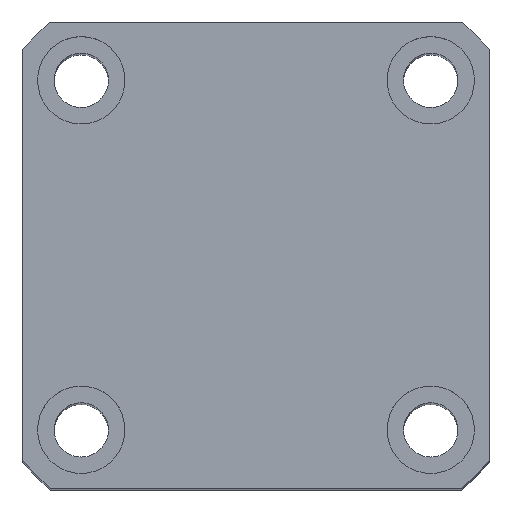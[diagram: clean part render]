
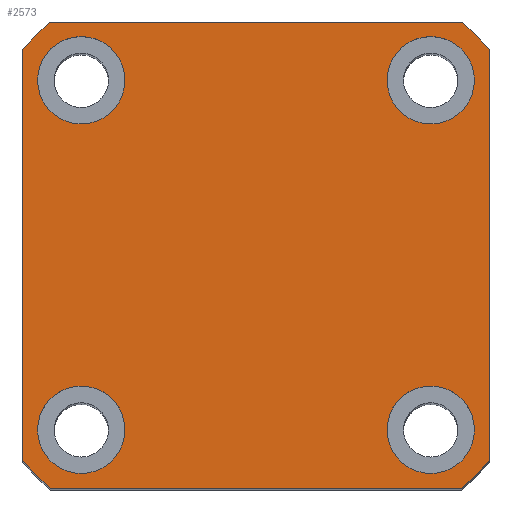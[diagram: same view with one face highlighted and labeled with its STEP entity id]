
A CAD part, top view. The second image highlights one B-rep face of the part: STEP entity #2573.
In plain terms, the highlighted planar face has unit normal (0, 0, 1) as drawn and (1, 0, 0) by its records, which use the part's own axes.
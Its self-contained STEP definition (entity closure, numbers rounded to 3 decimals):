
#80 = DIRECTION ( 'NONE',  ( 0., 0., -1. ) ) ;
#146 = LINE ( 'NONE', #2278, #1557 ) ;
#235 = AXIS2_PLACEMENT_3D ( 'NONE', #4720, #1074, #5329 ) ;
#282 = DIRECTION ( 'NONE',  ( 1., 0., 0. ) ) ;
#312 = CARTESIAN_POINT ( 'NONE',  ( 115., -21.166, 24. ) ) ;
#342 = CARTESIAN_POINT ( 'NONE',  ( 115., 21.166, -24. ) ) ;
#623 = CARTESIAN_POINT ( 'NONE',  ( 115., 18., 18. ) ) ;
#733 = CIRCLE ( 'NONE', #7125, 4.5 ) ;
#740 = FACE_BOUND ( 'NONE', #4736, .T. ) ;
#795 = CIRCLE ( 'NONE', #5382, 4.5 ) ;
#841 = EDGE_CURVE ( 'NONE', #6859, #7246, #3880, .T. ) ;
#954 = DIRECTION ( 'NONE',  ( 1., 0., 0. ) ) ;
#994 = CARTESIAN_POINT ( 'NONE',  ( 115., 0., 0. ) ) ;
#1002 = CARTESIAN_POINT ( 'NONE',  ( 115., 0., 0. ) ) ;
#1036 = ORIENTED_EDGE ( 'NONE', *, *, #5994, .F. ) ;
#1049 = DIRECTION ( 'NONE',  ( 1., 0., 0. ) ) ;
#1074 = DIRECTION ( 'NONE',  ( 1., 0., 0. ) ) ;
#1126 = EDGE_LOOP ( 'NONE', ( #2641, #1672 ) ) ;
#1143 = DIRECTION ( 'NONE',  ( 1., 0., 0. ) ) ;
#1173 = DIRECTION ( 'NONE',  ( 0., 0., -1. ) ) ;
#1235 = DIRECTION ( 'NONE',  ( 0., 0., -1. ) ) ;
#1269 = CIRCLE ( 'NONE', #235, 32. ) ;
#1291 = VECTOR ( 'NONE', #4623, 1000. ) ;
#1364 = CIRCLE ( 'NONE', #3820, 4.5 ) ;
#1483 = CARTESIAN_POINT ( 'NONE',  ( 115., -18., -18. ) ) ;
#1494 = CARTESIAN_POINT ( 'NONE',  ( 115., 21.166, 24. ) ) ;
#1557 = VECTOR ( 'NONE', #7863, 1000. ) ;
#1583 = VERTEX_POINT ( 'NONE', #342 ) ;
#1584 = EDGE_CURVE ( 'NONE', #7560, #5191, #5595, .T. ) ;
#1633 = DIRECTION ( 'NONE',  ( 0., 0., -1. ) ) ;
#1651 = DIRECTION ( 'NONE',  ( 1., 0., 0. ) ) ;
#1659 = EDGE_CURVE ( 'NONE', #6596, #7560, #7082, .T. ) ;
#1672 = ORIENTED_EDGE ( 'NONE', *, *, #841, .F. ) ;
#1794 = EDGE_CURVE ( 'NONE', #2222, #6982, #733, .T. ) ;
#1910 = ORIENTED_EDGE ( 'NONE', *, *, #5116, .T. ) ;
#2097 = CARTESIAN_POINT ( 'NONE',  ( 115., -18., 18. ) ) ;
#2161 = CARTESIAN_POINT ( 'NONE',  ( 115., 24., -24. ) ) ;
#2187 = ORIENTED_EDGE ( 'NONE', *, *, #1794, .F. ) ;
#2222 = VERTEX_POINT ( 'NONE', #7635 ) ;
#2242 = AXIS2_PLACEMENT_3D ( 'NONE', #1002, #3363, #2850 ) ;
#2278 = CARTESIAN_POINT ( 'NONE',  ( 115., 24., 24. ) ) ;
#2303 = CARTESIAN_POINT ( 'NONE',  ( 115., -21.166, -24. ) ) ;
#2331 = FACE_BOUND ( 'NONE', #1126, .T. ) ;
#2356 = DIRECTION ( 'NONE',  ( 1., 0., 0. ) ) ;
#2573 = ADVANCED_FACE ( 'NONE', ( #2331, #740, #3963, #7281, #7087 ), #5523, .T. ) ;
#2641 = ORIENTED_EDGE ( 'NONE', *, *, #4583, .F. ) ;
#2650 = CARTESIAN_POINT ( 'NONE',  ( 115., -18., 18. ) ) ;
#2668 = EDGE_CURVE ( 'NONE', #7940, #2830, #6904, .T. ) ;
#2681 = AXIS2_PLACEMENT_3D ( 'NONE', #4587, #1049, #7776 ) ;
#2728 = DIRECTION ( 'NONE',  ( 0., 0., -1. ) ) ;
#2768 = DIRECTION ( 'NONE',  ( 0., 0., -1. ) ) ;
#2781 = AXIS2_PLACEMENT_3D ( 'NONE', #7830, #7524, #7502 ) ;
#2810 = ORIENTED_EDGE ( 'NONE', *, *, #1584, .T. ) ;
#2830 = VERTEX_POINT ( 'NONE', #5763 ) ;
#2839 = EDGE_LOOP ( 'NONE', ( #4730, #6214 ) ) ;
#2850 = DIRECTION ( 'NONE',  ( 0., 0., -1. ) ) ;
#3028 = EDGE_LOOP ( 'NONE', ( #7467, #6876, #4162, #3408, #1910, #3731, #5991, #2810 ) ) ;
#3104 = ORIENTED_EDGE ( 'NONE', *, *, #7737, .F. ) ;
#3139 = CARTESIAN_POINT ( 'NONE',  ( 115., 18., 13.5 ) ) ;
#3163 = CARTESIAN_POINT ( 'NONE',  ( 115., -24., -21.166 ) ) ;
#3185 = CARTESIAN_POINT ( 'NONE',  ( 115., -18., -13.5 ) ) ;
#3203 = AXIS2_PLACEMENT_3D ( 'NONE', #6816, #6754, #6700 ) ;
#3213 = CIRCLE ( 'NONE', #3203, 32. ) ;
#3297 = CIRCLE ( 'NONE', #4661, 4.5 ) ;
#3315 = CARTESIAN_POINT ( 'NONE',  ( 115., -24., 21.166 ) ) ;
#3363 = DIRECTION ( 'NONE',  ( 1., 0., 0. ) ) ;
#3390 = CIRCLE ( 'NONE', #2781, 4.5 ) ;
#3408 = ORIENTED_EDGE ( 'NONE', *, *, #4082, .T. ) ;
#3571 = ORIENTED_EDGE ( 'NONE', *, *, #2668, .F. ) ;
#3731 = ORIENTED_EDGE ( 'NONE', *, *, #3899, .T. ) ;
#3791 = VECTOR ( 'NONE', #80, 1000. ) ;
#3818 = CARTESIAN_POINT ( 'NONE',  ( 115., 24., -21.166 ) ) ;
#3820 = AXIS2_PLACEMENT_3D ( 'NONE', #3933, #282, #4552 ) ;
#3880 = CIRCLE ( 'NONE', #6424, 4.5 ) ;
#3899 = EDGE_CURVE ( 'NONE', #7295, #6596, #7079, .T. ) ;
#3933 = CARTESIAN_POINT ( 'NONE',  ( 115., 18., -18. ) ) ;
#3963 = FACE_BOUND ( 'NONE', #3983, .T. ) ;
#3983 = EDGE_LOOP ( 'NONE', ( #3571, #1036 ) ) ;
#4024 = CARTESIAN_POINT ( 'NONE',  ( 115., 24., 24. ) ) ;
#4026 = EDGE_CURVE ( 'NONE', #7501, #5354, #3390, .T. ) ;
#4082 = EDGE_CURVE ( 'NONE', #6474, #7739, #3213, .T. ) ;
#4162 = ORIENTED_EDGE ( 'NONE', *, *, #4653, .T. ) ;
#4202 = CARTESIAN_POINT ( 'NONE',  ( 115., 18., -22.5 ) ) ;
#4329 = CARTESIAN_POINT ( 'NONE',  ( 115., 24., 21.166 ) ) ;
#4486 = VERTEX_POINT ( 'NONE', #3818 ) ;
#4552 = DIRECTION ( 'NONE',  ( 0., 0., -1. ) ) ;
#4583 = EDGE_CURVE ( 'NONE', #7246, #6859, #3297, .T. ) ;
#4587 = CARTESIAN_POINT ( 'NONE',  ( 115., 18., -18. ) ) ;
#4596 = CARTESIAN_POINT ( 'NONE',  ( 115., -18., -18. ) ) ;
#4604 = EDGE_CURVE ( 'NONE', #5191, #1583, #6373, .T. ) ;
#4623 = DIRECTION ( 'NONE',  ( 0., 1., 0. ) ) ;
#4644 = CARTESIAN_POINT ( 'NONE',  ( 115., -18., -22.5 ) ) ;
#4653 = EDGE_CURVE ( 'NONE', #4486, #6474, #6174, .T. ) ;
#4661 = AXIS2_PLACEMENT_3D ( 'NONE', #4596, #954, #5206 ) ;
#4720 = CARTESIAN_POINT ( 'NONE',  ( 115., 0., 0. ) ) ;
#4730 = ORIENTED_EDGE ( 'NONE', *, *, #6689, .F. ) ;
#4736 = EDGE_LOOP ( 'NONE', ( #2187, #3104 ) ) ;
#4890 = DIRECTION ( 'NONE',  ( 1., 0., 0. ) ) ;
#5116 = EDGE_CURVE ( 'NONE', #7739, #7295, #146, .T. ) ;
#5177 = AXIS2_PLACEMENT_3D ( 'NONE', #2097, #6407, #2728 ) ;
#5191 = VERTEX_POINT ( 'NONE', #2303 ) ;
#5206 = DIRECTION ( 'NONE',  ( 0., 0., -1. ) ) ;
#5329 = DIRECTION ( 'NONE',  ( 0., 0., -1. ) ) ;
#5354 = VERTEX_POINT ( 'NONE', #3139 ) ;
#5382 = AXIS2_PLACEMENT_3D ( 'NONE', #623, #4890, #1235 ) ;
#5523 = PLANE ( 'NONE',  #2242 ) ;
#5595 = CIRCLE ( 'NONE', #5835, 32. ) ;
#5684 = CARTESIAN_POINT ( 'NONE',  ( 115., -24., 24. ) ) ;
#5763 = CARTESIAN_POINT ( 'NONE',  ( 115., 18., -13.5 ) ) ;
#5835 = AXIS2_PLACEMENT_3D ( 'NONE', #994, #1143, #1173 ) ;
#5964 = VECTOR ( 'NONE', #7761, 1000. ) ;
#5991 = ORIENTED_EDGE ( 'NONE', *, *, #1659, .T. ) ;
#5994 = EDGE_CURVE ( 'NONE', #2830, #7940, #1364, .T. ) ;
#6088 = CARTESIAN_POINT ( 'NONE',  ( 115., -18., 22.5 ) ) ;
#6174 = LINE ( 'NONE', #4024, #5964 ) ;
#6214 = ORIENTED_EDGE ( 'NONE', *, *, #4026, .F. ) ;
#6321 = EDGE_CURVE ( 'NONE', #1583, #4486, #1269, .T. ) ;
#6373 = LINE ( 'NONE', #2161, #1291 ) ;
#6407 = DIRECTION ( 'NONE',  ( 1., 0., 0. ) ) ;
#6424 = AXIS2_PLACEMENT_3D ( 'NONE', #1483, #1651, #2768 ) ;
#6474 = VERTEX_POINT ( 'NONE', #4329 ) ;
#6578 = DIRECTION ( 'NONE',  ( 0., 0., -1. ) ) ;
#6596 = VERTEX_POINT ( 'NONE', #3315 ) ;
#6609 = DIRECTION ( 'NONE',  ( 1., 0., 0. ) ) ;
#6689 = EDGE_CURVE ( 'NONE', #5354, #7501, #795, .T. ) ;
#6700 = DIRECTION ( 'NONE',  ( 0., 0., -1. ) ) ;
#6733 = CIRCLE ( 'NONE', #5177, 4.5 ) ;
#6754 = DIRECTION ( 'NONE',  ( 1., 0., 0. ) ) ;
#6816 = CARTESIAN_POINT ( 'NONE',  ( 115., 0., 0. ) ) ;
#6859 = VERTEX_POINT ( 'NONE', #3185 ) ;
#6876 = ORIENTED_EDGE ( 'NONE', *, *, #6321, .T. ) ;
#6904 = CIRCLE ( 'NONE', #2681, 4.5 ) ;
#6982 = VERTEX_POINT ( 'NONE', #6088 ) ;
#7079 = CIRCLE ( 'NONE', #7903, 32. ) ;
#7082 = LINE ( 'NONE', #5684, #3791 ) ;
#7087 = FACE_OUTER_BOUND ( 'NONE', #3028, .T. ) ;
#7125 = AXIS2_PLACEMENT_3D ( 'NONE', #2650, #2356, #1633 ) ;
#7220 = CARTESIAN_POINT ( 'NONE',  ( 115., 0., 0. ) ) ;
#7246 = VERTEX_POINT ( 'NONE', #4644 ) ;
#7281 = FACE_BOUND ( 'NONE', #2839, .T. ) ;
#7295 = VERTEX_POINT ( 'NONE', #312 ) ;
#7467 = ORIENTED_EDGE ( 'NONE', *, *, #4604, .T. ) ;
#7501 = VERTEX_POINT ( 'NONE', #7991 ) ;
#7502 = DIRECTION ( 'NONE',  ( 0., 0., -1. ) ) ;
#7524 = DIRECTION ( 'NONE',  ( 1., 0., 0. ) ) ;
#7560 = VERTEX_POINT ( 'NONE', #3163 ) ;
#7635 = CARTESIAN_POINT ( 'NONE',  ( 115., -18., 13.5 ) ) ;
#7737 = EDGE_CURVE ( 'NONE', #6982, #2222, #6733, .T. ) ;
#7739 = VERTEX_POINT ( 'NONE', #1494 ) ;
#7761 = DIRECTION ( 'NONE',  ( 0., 0., 1. ) ) ;
#7776 = DIRECTION ( 'NONE',  ( 0., 0., -1. ) ) ;
#7830 = CARTESIAN_POINT ( 'NONE',  ( 115., 18., 18. ) ) ;
#7863 = DIRECTION ( 'NONE',  ( 0., -1., 0. ) ) ;
#7903 = AXIS2_PLACEMENT_3D ( 'NONE', #7220, #6609, #6578 ) ;
#7940 = VERTEX_POINT ( 'NONE', #4202 ) ;
#7991 = CARTESIAN_POINT ( 'NONE',  ( 115., 18., 22.5 ) ) ;
